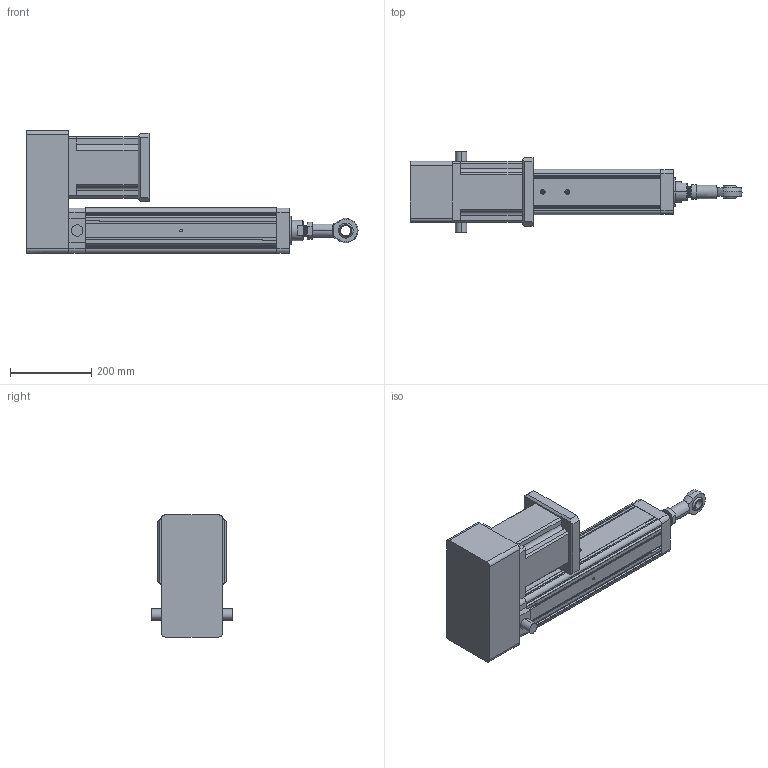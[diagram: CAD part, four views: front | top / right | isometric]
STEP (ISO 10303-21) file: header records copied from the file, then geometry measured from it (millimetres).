
FILE_DESCRIPTION (( 'STEP AP203' ), '1' );
FILE_NAME ('YRJ110-L300-H4K3.STEP', '2020-01-06T01:21:57', ( 'User' ), ( 'China' ), 'SwSTEP 2.0', 'SolidWorks 2016', '' );
FILE_SCHEMA (( 'CONFIG_CONTROL_DESIGN' ));
Length unit declared in the file: millimetre
Products named in the file (11): 萇儂碟-110; K1-110; _BNC01-SI25T_K-R-001; _BNC01-SI25T_K-R-002; BNC01-SI25T_K-R; 095-100俴最倰第; K3-110; 142熬厒儂; YRJ110-L300-H4K3; H5-110-1; H5-110-2
Assembly tree (10 placements, depth 4):
  YRJ110-L300-H4K3
    095-100俴最倰第
    142熬厒儂
    H5-110-1
    H5-110-2
    萇儂碟-110
    K3-110
      K1-110
      BNC01-SI25T_K-R
        _BNC01-SI25T_K-R-001
        _BNC01-SI25T_K-R-002
Bounding box: 815 x 200 x 300.5 mm (x, y, z)
Volume: 11886916.5 mm3; surface area: 933322.3 mm2
Topology: 8 solids, 8 shells, 401 faces, 1101 edges, 709 vertices
Faces by surface type: plane 187, cylinder 166, cone 34, bspline 14
Entity records: 22833 total; most frequent: CARTESIAN_POINT 11715, ORIENTED_EDGE 2146, DIRECTION 2000, EDGE_CURVE 1073, VERTEX_POINT 709, AXIS2_PLACEMENT_3D 674, VECTOR 652, LINE 652
